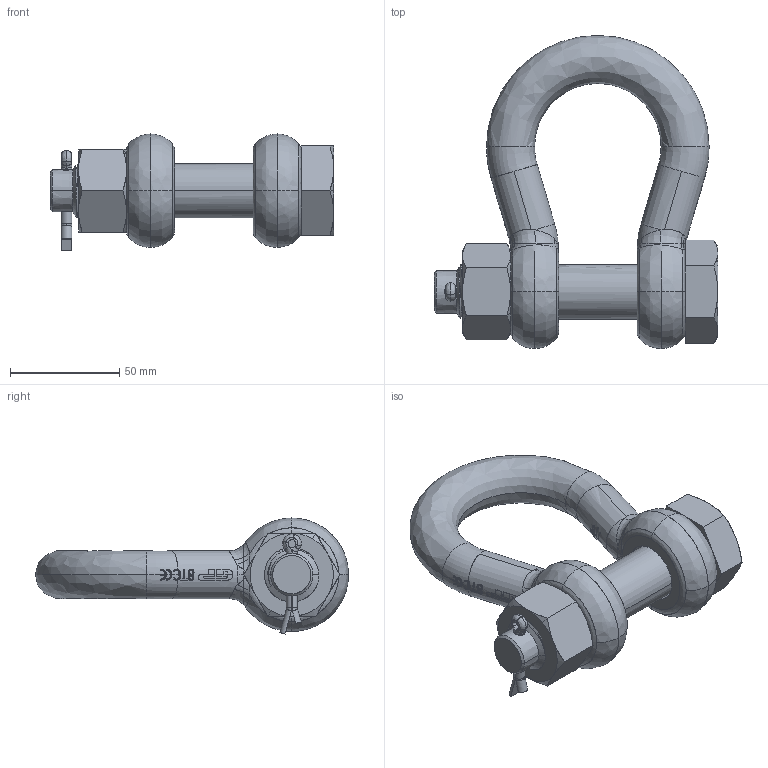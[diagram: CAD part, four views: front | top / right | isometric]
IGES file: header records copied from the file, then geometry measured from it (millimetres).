
Start section: START RECORD GO HERE.
Global section: file name: POGHMB22.igs; native system: Solidworks 2009                             ; preprocessor: Solidworks                 ; author: v.b.; organization: P4; date: 20090826.095141; units: millimetre
Bounding box: 130 x 143.5 x 53.17 mm (x, y, z)
Surface area: 51810.9 mm2 (no closed solid volume)
Topology: 0 solids, 0 shells, 760 faces, 4655 edges, 4646 vertices
Faces by surface type: bspline 344, plane 235, revolution 181
